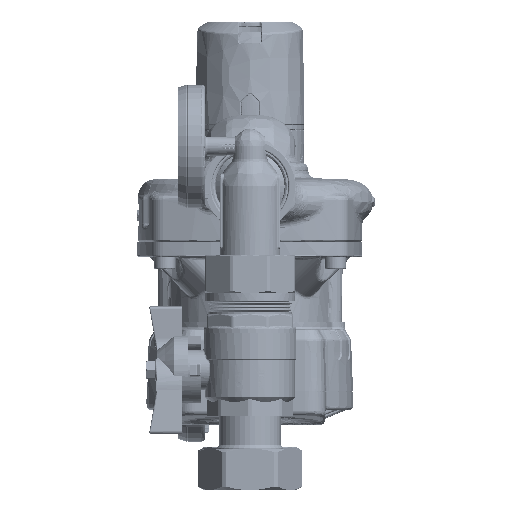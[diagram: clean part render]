
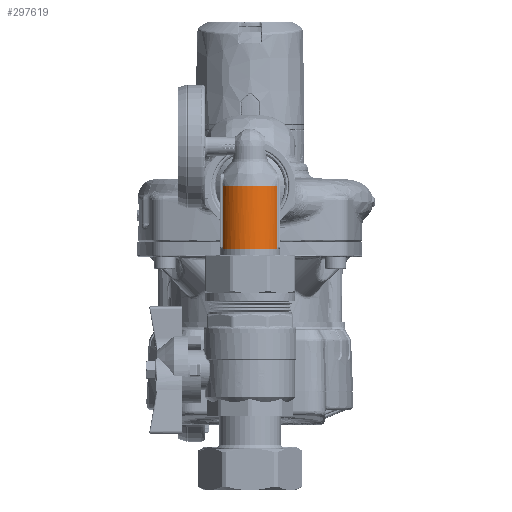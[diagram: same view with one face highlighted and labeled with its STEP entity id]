
A CAD part, left-side view. The second image highlights one B-rep face of the part: STEP entity #297619.
In plain terms, the highlighted cylindrical face has radius 12 mm (diameter 24 mm), a partial arc.
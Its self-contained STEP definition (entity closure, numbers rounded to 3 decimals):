
#6362 = CARTESIAN_POINT ( 'NONE',  ( 10.776, -24.186, 5.28 ) ) ;
#11324 = CIRCLE ( 'NONE', #217933, 12. ) ;
#15913 = CARTESIAN_POINT ( 'NONE',  ( -10.776, -24., 5.28 ) ) ;
#28448 = DIRECTION ( 'NONE',  ( 0., 1., 0. ) ) ;
#33789 = ORIENTED_EDGE ( 'NONE', *, *, #353882, .F. ) ;
#39921 = CARTESIAN_POINT ( 'NONE',  ( -10.776, -24.093, 5.28 ) ) ;
#42076 = DIRECTION ( 'NONE',  ( -1., 0., 0. ) ) ;
#42368 = CARTESIAN_POINT ( 'NONE',  ( 10.838, -24.626, 5.152 ) ) ;
#48972 = CARTESIAN_POINT ( 'NONE',  ( -10.776, 0., 5.28 ) ) ;
#63476 = CARTESIAN_POINT ( 'NONE',  ( 10.922, -24.931, 4.972 ) ) ;
#66946 = CARTESIAN_POINT ( 'NONE',  ( 1.149, -25., 12. ) ) ;
#68602 = VECTOR ( 'NONE', #28448, 1000. ) ;
#70598 = CYLINDRICAL_SURFACE ( 'NONE', #213668, 12. ) ;
#72748 = CARTESIAN_POINT ( 'NONE',  ( 10.776, -24., 5.28 ) ) ;
#77600 = CARTESIAN_POINT ( 'NONE',  ( -10.948, -25., 4.913 ) ) ;
#79072 = CARTESIAN_POINT ( 'NONE',  ( 0., 0., 0. ) ) ;
#79792 = ORIENTED_EDGE ( 'NONE', *, *, #128369, .T. ) ;
#95118 = CARTESIAN_POINT ( 'NONE',  ( -10.78, -24.184, 5.272 ) ) ;
#102880 = CARTESIAN_POINT ( 'NONE',  ( 7.485, -25., 9.449 ) ) ;
#104775 = CARTESIAN_POINT ( 'NONE',  ( 10.478, -25., 5.962 ) ) ;
#109875 = CARTESIAN_POINT ( 'NONE',  ( -9.856, -25., 6.942 ) ) ;
#110028 = VERTEX_POINT ( 'NONE', #146279 ) ;
#110562 = ORIENTED_EDGE ( 'NONE', *, *, #286968, .T. ) ;
#125515 = CARTESIAN_POINT ( 'NONE',  ( -10.895, -24.863, 5.031 ) ) ;
#128056 = B_SPLINE_CURVE_WITH_KNOTS ( 'NONE', 3,
 ( #327636, #66946, #249414, #365461, #274248, #102880, #336960, #218956, #104775, #335079 ),
 .UNSPECIFIED., .F., .F.,
 ( 4, 2, 2, 2, 4 ),
 ( 0., 0.25, 0.5, 0.75, 1. ),
 .UNSPECIFIED. ) ;
#128369 = EDGE_CURVE ( 'NONE', #189090, #237626, #321764, .T. ) ;
#132776 = CARTESIAN_POINT ( 'NONE',  ( 0., -25., 12. ) ) ;
#134652 = CARTESIAN_POINT ( 'NONE',  ( -10.477, -25., 5.962 ) ) ;
#138023 = ORIENTED_EDGE ( 'NONE', *, *, #231484, .T. ) ;
#140680 = CARTESIAN_POINT ( 'NONE',  ( 10.776, 12., 5.28 ) ) ;
#146279 = CARTESIAN_POINT ( 'NONE',  ( 10.776, 0., 5.28 ) ) ;
#149621 = VERTEX_POINT ( 'NONE', #72748 ) ;
#160710 = B_SPLINE_CURVE_WITH_KNOTS ( 'NONE', 3,
 ( #132776, #283113, #252654, #277477, #197375, #311654, #338320, #109875, #134652, #77600 ),
 .UNSPECIFIED., .F., .F.,
 ( 4, 2, 2, 2, 4 ),
 ( 0., 0.25, 0.5, 0.75, 1. ),
 .UNSPECIFIED. ) ;
#162825 = DIRECTION ( 'NONE',  ( 1., 0., 0. ) ) ;
#189090 = VERTEX_POINT ( 'NONE', #15913 ) ;
#196979 = DIRECTION ( 'NONE',  ( 0., 1., 0. ) ) ;
#197375 = CARTESIAN_POINT ( 'NONE',  ( -5.556, -25., 10.698 ) ) ;
#205305 = B_SPLINE_CURVE_WITH_KNOTS ( 'NONE', 3,
 ( #360113, #63476, #358271, #267028, #42368, #270794, #6362, #244058 ),
 .UNSPECIFIED., .F., .F.,
 ( 4, 2, 2, 4 ),
 ( 0., 0.25, 0.5, 1. ),
 .UNSPECIFIED. ) ;
#211152 = CARTESIAN_POINT ( 'NONE',  ( -10.795, -24.364, 5.24 ) ) ;
#213668 = AXIS2_PLACEMENT_3D ( 'NONE', #302783, #361669, #42076 ) ;
#217933 = AXIS2_PLACEMENT_3D ( 'NONE', #79072, #196979, #162825 ) ;
#218933 = CARTESIAN_POINT ( 'NONE',  ( -10.776, 12., 5.28 ) ) ;
#218956 = CARTESIAN_POINT ( 'NONE',  ( 9.856, -25., 6.942 ) ) ;
#230016 = EDGE_CURVE ( 'NONE', #283858, #237626, #160710, .T. ) ;
#231484 = EDGE_CURVE ( 'NONE', #283858, #346070, #128056, .T. ) ;
#236938 = EDGE_LOOP ( 'NONE', ( #239777, #79792, #374027, #138023, #255244, #110562, #33789 ) ) ;
#237626 = VERTEX_POINT ( 'NONE', #239325 ) ;
#239325 = CARTESIAN_POINT ( 'NONE',  ( -10.948, -25., 4.913 ) ) ;
#239755 = CARTESIAN_POINT ( 'NONE',  ( -10.776, -24., 5.28 ) ) ;
#239777 = ORIENTED_EDGE ( 'NONE', *, *, #321330, .T. ) ;
#244058 = CARTESIAN_POINT ( 'NONE',  ( 10.776, -24., 5.28 ) ) ;
#249414 = CARTESIAN_POINT ( 'NONE',  ( 2.298, -25., 11.834 ) ) ;
#252654 = CARTESIAN_POINT ( 'NONE',  ( -2.298, -25., 11.834 ) ) ;
#255244 = ORIENTED_EDGE ( 'NONE', *, *, #349517, .T. ) ;
#267028 = CARTESIAN_POINT ( 'NONE',  ( 10.856, -24.705, 5.114 ) ) ;
#270794 = CARTESIAN_POINT ( 'NONE',  ( 10.792, -24.366, 5.248 ) ) ;
#274248 = CARTESIAN_POINT ( 'NONE',  ( 5.556, -25., 10.698 ) ) ;
#277477 = CARTESIAN_POINT ( 'NONE',  ( -4.501, -25., 11.183 ) ) ;
#283113 = CARTESIAN_POINT ( 'NONE',  ( -1.149, -25., 12. ) ) ;
#283858 = VERTEX_POINT ( 'NONE', #336846 ) ;
#286968 = EDGE_CURVE ( 'NONE', #149621, #110028, #317670, .T. ) ;
#297619 = ADVANCED_FACE ( 'NONE', ( #331310 ), #70598, .T. ) ;
#300622 = CARTESIAN_POINT ( 'NONE',  ( -10.853, -24.709, 5.121 ) ) ;
#302260 = CARTESIAN_POINT ( 'NONE',  ( 10.948, -25., 4.913 ) ) ;
#302783 = CARTESIAN_POINT ( 'NONE',  ( 0., 12., 0. ) ) ;
#306531 = DIRECTION ( 'NONE',  ( 0., -1., 0. ) ) ;
#311654 = CARTESIAN_POINT ( 'NONE',  ( -7.485, -25., 9.449 ) ) ;
#317670 = LINE ( 'NONE', #140680, #68602 ) ;
#321330 = EDGE_CURVE ( 'NONE', #333344, #189090, #331331, .T. ) ;
#321764 = B_SPLINE_CURVE_WITH_KNOTS ( 'NONE', 3,
 ( #239755, #39921, #95118, #211152, #327295, #300622, #125515, #357676 ),
 .UNSPECIFIED., .F., .F.,
 ( 4, 2, 2, 4 ),
 ( 0., 0.25, 0.5, 1. ),
 .UNSPECIFIED. ) ;
#327295 = CARTESIAN_POINT ( 'NONE',  ( -10.807, -24.453, 5.215 ) ) ;
#327636 = CARTESIAN_POINT ( 'NONE',  ( 0., -25., 12. ) ) ;
#331310 = FACE_OUTER_BOUND ( 'NONE', #236938, .T. ) ;
#331331 = LINE ( 'NONE', #218933, #337209 ) ;
#333344 = VERTEX_POINT ( 'NONE', #48972 ) ;
#335079 = CARTESIAN_POINT ( 'NONE',  ( 10.948, -25., 4.913 ) ) ;
#336846 = CARTESIAN_POINT ( 'NONE',  ( 0., -25., 12. ) ) ;
#336960 = CARTESIAN_POINT ( 'NONE',  ( 8.359, -25., 8.686 ) ) ;
#337209 = VECTOR ( 'NONE', #306531, 1000. ) ;
#338320 = CARTESIAN_POINT ( 'NONE',  ( -8.359, -25., 8.686 ) ) ;
#346070 = VERTEX_POINT ( 'NONE', #302260 ) ;
#349517 = EDGE_CURVE ( 'NONE', #346070, #149621, #205305, .T. ) ;
#353882 = EDGE_CURVE ( 'NONE', #333344, #110028, #11324, .T. ) ;
#357676 = CARTESIAN_POINT ( 'NONE',  ( -10.948, -25., 4.913 ) ) ;
#358271 = CARTESIAN_POINT ( 'NONE',  ( 10.898, -24.859, 5.024 ) ) ;
#360113 = CARTESIAN_POINT ( 'NONE',  ( 10.948, -25., 4.913 ) ) ;
#361669 = DIRECTION ( 'NONE',  ( 0., 1., 0. ) ) ;
#365461 = CARTESIAN_POINT ( 'NONE',  ( 4.502, -25., 11.183 ) ) ;
#374027 = ORIENTED_EDGE ( 'NONE', *, *, #230016, .F. ) ;
